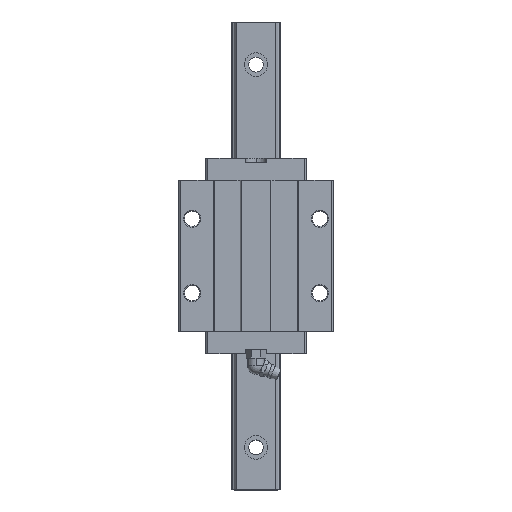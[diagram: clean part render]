
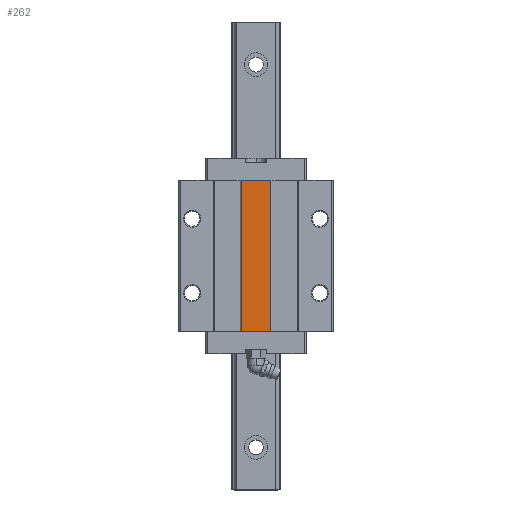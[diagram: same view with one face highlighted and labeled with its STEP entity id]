
A CAD part, top view. The second image highlights one B-rep face of the part: STEP entity #262.
In plain terms, the highlighted planar face has unit normal (0, 0, 1).
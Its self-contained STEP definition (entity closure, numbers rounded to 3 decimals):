
#262=ADVANCED_FACE('',(#598),#599,.T.);
#598=FACE_OUTER_BOUND('',#1174,.T.);
#599=PLANE('',#1175);
#1174=EDGE_LOOP('',(#2251,#2252,#2253,#2254));
#1175=AXIS2_PLACEMENT_3D('',#2255,#2256,#2257);
#2251=ORIENTED_EDGE('',*,*,#3808,.T.);
#2252=ORIENTED_EDGE('',*,*,#3711,.F.);
#2253=ORIENTED_EDGE('',*,*,#3762,.F.);
#2254=ORIENTED_EDGE('',*,*,#3732,.T.);
#2255=CARTESIAN_POINT('',(-7.0,71.0,33.0));
#2256=DIRECTION('',(0.,0.,1.0));
#2257=DIRECTION('',(1.0,0.,0.));
#3711=EDGE_CURVE('',#4669,#4664,#4671,.T.);
#3732=EDGE_CURVE('',#4702,#4700,#4703,.T.);
#3762=EDGE_CURVE('',#4702,#4669,#4757,.T.);
#3808=EDGE_CURVE('',#4700,#4664,#4837,.T.);
#4664=VERTEX_POINT('',#6295);
#4669=VERTEX_POINT('',#6302);
#4671=LINE('',#6305,#6306);
#4700=VERTEX_POINT('',#6341);
#4702=VERTEX_POINT('',#6344);
#4703=LINE('',#6345,#6346);
#4757=LINE('',#6423,#6424);
#4837=LINE('',#6544,#6545);
#6295=CARTESIAN_POINT('',(7.0,0.,33.0));
#6302=CARTESIAN_POINT('',(7.0,71.0,33.0));
#6305=CARTESIAN_POINT('',(7.0,71.0,33.0));
#6306=VECTOR('',#7954,1000.0);
#6341=CARTESIAN_POINT('',(-7.0,0.,33.0));
#6344=CARTESIAN_POINT('',(-7.0,71.0,33.0));
#6345=CARTESIAN_POINT('',(-7.0,71.0,33.0));
#6346=VECTOR('',#8001,1000.0);
#6423=CARTESIAN_POINT('',(-7.0,71.0,33.0));
#6424=VECTOR('',#8043,1000.0);
#6544=CARTESIAN_POINT('',(-7.0,0.,33.0));
#6545=VECTOR('',#8099,1000.0);
#7954=DIRECTION('',(0.,-1.0,0.));
#8001=DIRECTION('',(0.,-1.0,0.));
#8043=DIRECTION('',(1.0,0.,0.));
#8099=DIRECTION('',(1.0,0.,0.));
